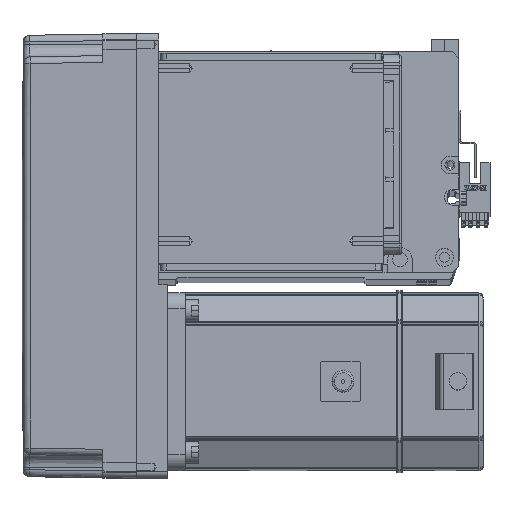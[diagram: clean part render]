
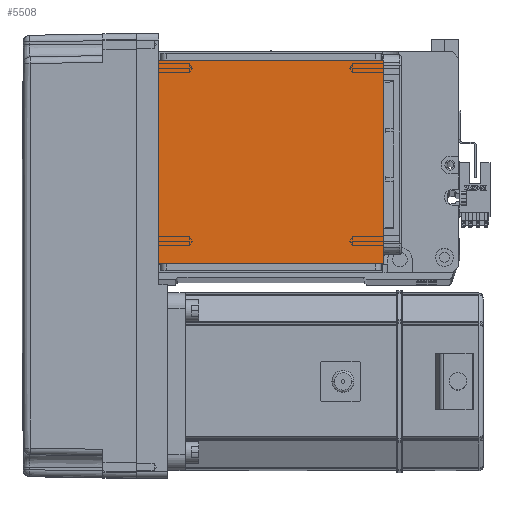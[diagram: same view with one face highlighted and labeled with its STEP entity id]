
A CAD part, top view. The second image highlights one B-rep face of the part: STEP entity #5508.
In plain terms, the highlighted planar face has unit normal (0, 0, 1).
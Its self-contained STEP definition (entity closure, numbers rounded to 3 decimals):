
#218 = VERTEX_POINT ( 'NONE', #34651 ) ;
#1083 = DIRECTION ( 'NONE',  ( -1., 0., 0. ) ) ;
#1204 = CARTESIAN_POINT ( 'NONE',  ( -70.004, 111.5, 115. ) ) ;
#4798 = ORIENTED_EDGE ( 'NONE', *, *, #21775, .F. ) ;
#5508 = ADVANCED_FACE ( 'NONE', ( #32754 ), #6182, .T. ) ;
#6182 = PLANE ( 'NONE',  #47127 ) ;
#10880 = DIRECTION ( 'NONE',  ( 1., 0., 0. ) ) ;
#11386 = VERTEX_POINT ( 'NONE', #41313 ) ;
#12415 = VECTOR ( 'NONE', #16230, 1000. ) ;
#14781 = EDGE_LOOP ( 'NONE', ( #4798, #44159, #33565, #16291 ) ) ;
#16230 = DIRECTION ( 'NONE',  ( 0., -1., 0. ) ) ;
#16291 = ORIENTED_EDGE ( 'NONE', *, *, #52012, .T. ) ;
#17381 = VECTOR ( 'NONE', #1083, 1000. ) ;
#17564 = VERTEX_POINT ( 'NONE', #28151 ) ;
#19247 = CARTESIAN_POINT ( 'NONE',  ( 50.5, 122., 115. ) ) ;
#20912 = EDGE_CURVE ( 'NONE', #38081, #218, #33311, .T. ) ;
#21775 = EDGE_CURVE ( 'NONE', #38081, #11386, #27413, .T. ) ;
#24558 = VECTOR ( 'NONE', #46854, 1000. ) ;
#27413 = LINE ( 'NONE', #1204, #24558 ) ;
#28151 = CARTESIAN_POINT ( 'NONE',  ( 50.5, 20., 115. ) ) ;
#28313 = EDGE_CURVE ( 'NONE', #17564, #218, #47598, .T. ) ;
#32754 = FACE_OUTER_BOUND ( 'NONE', #14781, .T. ) ;
#33311 = LINE ( 'NONE', #48370, #12415 ) ;
#33565 = ORIENTED_EDGE ( 'NONE', *, *, #28313, .F. ) ;
#34651 = CARTESIAN_POINT ( 'NONE',  ( -50.5, 20., 115. ) ) ;
#38081 = VERTEX_POINT ( 'NONE', #50917 ) ;
#38390 = CARTESIAN_POINT ( 'NONE',  ( 0., 0., 115. ) ) ;
#41313 = CARTESIAN_POINT ( 'NONE',  ( 50.5, 111.5, 115. ) ) ;
#42066 = CARTESIAN_POINT ( 'NONE',  ( -70.004, 20., 115. ) ) ;
#44131 = LINE ( 'NONE', #19247, #58514 ) ;
#44159 = ORIENTED_EDGE ( 'NONE', *, *, #20912, .T. ) ;
#46854 = DIRECTION ( 'NONE',  ( 1., 0., 0. ) ) ;
#46992 = DIRECTION ( 'NONE',  ( 0., 1., 0. ) ) ;
#47127 = AXIS2_PLACEMENT_3D ( 'NONE', #38390, #56884, #10880 ) ;
#47598 = LINE ( 'NONE', #42066, #17381 ) ;
#48370 = CARTESIAN_POINT ( 'NONE',  ( -50.5, 122., 115. ) ) ;
#50917 = CARTESIAN_POINT ( 'NONE',  ( -50.5, 111.5, 115. ) ) ;
#52012 = EDGE_CURVE ( 'NONE', #17564, #11386, #44131, .T. ) ;
#56884 = DIRECTION ( 'NONE',  ( 0., 0., 1. ) ) ;
#58514 = VECTOR ( 'NONE', #46992, 1000. ) ;
